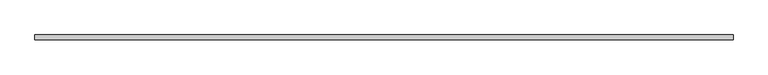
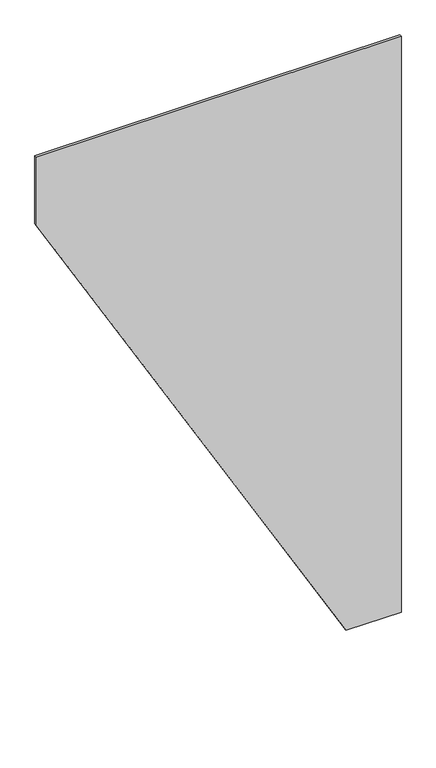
"""IFC4 building model written with IfcOpenShell, lengths in millimetres: plate geometry, 系統嵌板 : 玻璃 1.0cm."""

from ifc_helpers import new_model, si_unit, frame, origin, place, context, project, spatial, polyline, outline, extrude, source, transform, mapped, element, save


def plate_16fcc1f1(model_context):
    return source(origin(), model_context, "Body", "SweptSolid", [
        extrude(outline(polyline([(0.0, 523.5026919), (0.0, 750.0), (2500.0, 750.0), (2500.0, -750.0), (2205.7713659, -750.0), (0.0, 523.5026919)])), frame((0.0, -5.0, 0.0), z_axis=(0.0, 1.0, 0.0), x_axis=(0.0, 0.0, 1.0)), (0.0, 0.0, 1.0), 10.0),
    ])


if __name__ == "__main__":
    model = new_model("IFC4")
    model_context = context("Model", 3, world=origin())
    ifc_project = project(units=[si_unit("LENGTHUNIT", "METRE", prefix="MILLI")], contexts=[model_context])
    site = spatial("IfcSite", under=ifc_project)
    building = spatial("IfcBuilding", under=site)
    placement = place(None, origin())
    plate_shape = plate_16fcc1f1(model_context)
    element("IfcPlate", 1, ObjectType="系統嵌板 : 玻璃 1.0cm", at=placement, inside=building, context=model_context, shape_type="MappedRepresentation", body=[
        mapped(plate_shape, transform((0.0, 0.0, 0.0), x_axis=(1.0, 0.0, 0.0), y_axis=(0.0, 1.0, 0.0), z_axis=(0.0, 0.0, 1.0))),
    ])
    save(model, "model.ifc")
